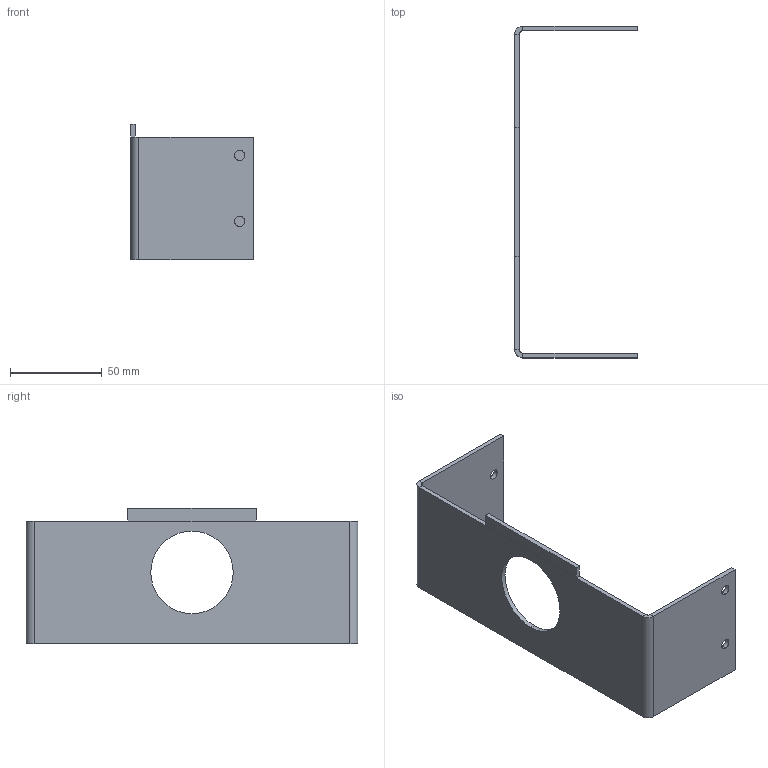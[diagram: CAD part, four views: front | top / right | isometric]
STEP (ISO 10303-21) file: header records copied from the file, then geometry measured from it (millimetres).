
FILE_DESCRIPTION((''),'2;1');
FILE_NAME('HMK3-1','2020-03-08T',('brijesh.srivastava'),(''),'CREO PARAMETRIC BY PTC INC, 2015080','CREO PARAMETRIC BY PTC INC, 2015080','');
FILE_SCHEMA(('CONFIG_CONTROL_DESIGN'));
Length unit declared in the file: millimetre
Products named in the file (1): HMK3-1
Bounding box: 67 x 181 x 74 mm (x, y, z)
Volume: 48469 mm3; surface area: 41207.5 mm2
Topology: 1 solids, 1 shells, 38 faces, 88 edges, 52 vertices
Faces by surface type: plane 24, cylinder 14
Entity records: 1118 total; most frequent: DIRECTION 192, CARTESIAN_POINT 178, ORIENTED_EDGE 176, EDGE_CURVE 88, AXIS2_PLACEMENT_3D 66, VECTOR 60, LINE 60, VERTEX_POINT 52
